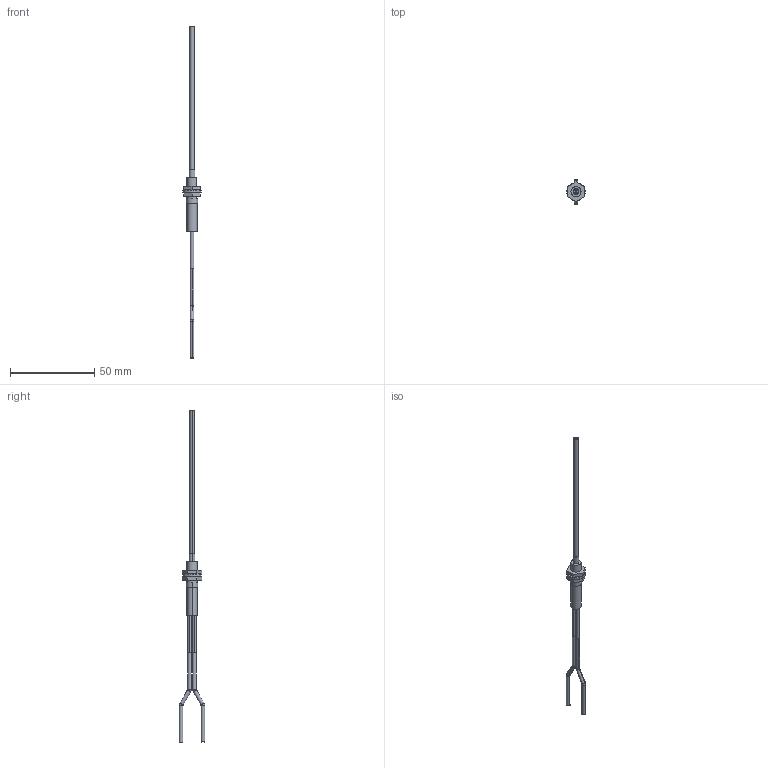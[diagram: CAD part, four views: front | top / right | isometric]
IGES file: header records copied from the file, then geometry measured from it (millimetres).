
Start section: SolidWorks IGES FILE using analytic representation for surfaces
Global section: file name: C:\Documents and Settings\yk0651\デスクトップ\3D_catalog_050904\0_IGES\FD-FM2S.IGS; native system: SolidWorks 2004 by SolidWorks Corporation; preprocessor: Version 5.3; author: yk0651; date: 050904.183047; units: millimetre
Bounding box: 11 x 15.2 x 196.83 mm (x, y, z)
Volume: 2259.6 mm3; surface area: 3106.2 mm2
Topology: 6 solids, 6 shells, 78 faces, 158 edges, 100 vertices
Faces by surface type: revolution 45, plane 33
